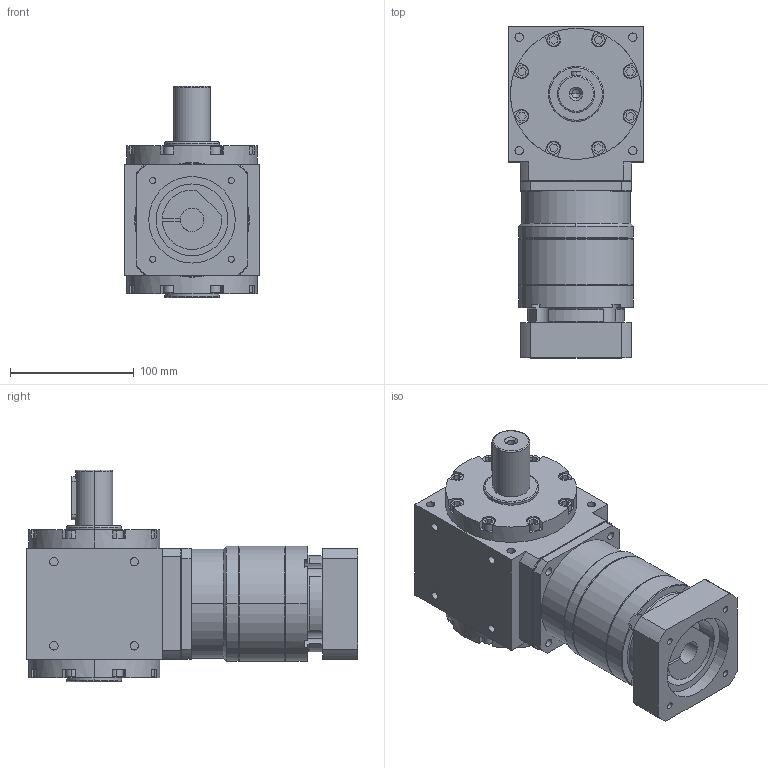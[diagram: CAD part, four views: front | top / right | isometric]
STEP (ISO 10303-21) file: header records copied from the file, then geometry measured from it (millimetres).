
FILE_DESCRIPTION (( 'STEP AP203' ), '1' );
FILE_NAME ('AAW110AS-L2-P 19-70-90-M6.STEP', '2024-12-24T05:21:35', ( '' ), ( '' ), 'SwSTEP 2.0', 'SolidWorks 2021', '' );
FILE_SCHEMA (( 'CONFIG_CONTROL_DESIGN' ));
Length unit declared in the file: millimetre
Products named in the file (3): AAW110AS-L2-P 19-70-90-M6; VRB-090-L2-S2-P1 19-70-90-M6; AAW110AS-P
Assembly tree (2 placements, depth 2):
  AAW110AS-L2-P 19-70-90-M6
    AAW110AS-P
    VRB-090-L2-S2-P1 19-70-90-M6
Bounding box: 110 x 268.5 x 171 mm (x, y, z)
Volume: 2398108.4 mm3; surface area: 176708.7 mm2
Topology: 2 solids, 2 shells, 476 faces, 1167 edges, 762 vertices
Faces by surface type: plane 254, cylinder 173, cone 43, bspline 6
Entity records: 14563 total; most frequent: CARTESIAN_POINT 2701, DIRECTION 2506, ORIENTED_EDGE 2330, EDGE_CURVE 1165, AXIS2_PLACEMENT_3D 915, VERTEX_POINT 762, VECTOR 676, LINE 676
